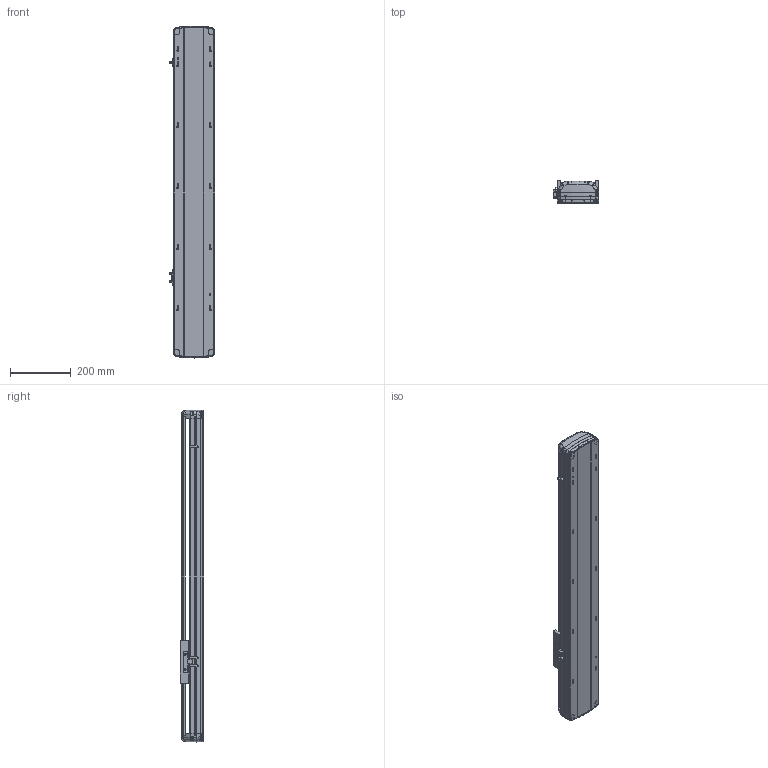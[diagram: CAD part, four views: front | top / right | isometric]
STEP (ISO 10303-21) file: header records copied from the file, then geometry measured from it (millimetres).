
FILE_DESCRIPTION (( 'STEP AP214' ), '1' );
FILE_NAME ('RTH14-XX-700-B-M20-C4.STEP', '2025-10-25T02:22:18', ( 'Microsoft' ), ( 'Microsoft' ), 'SwSTEP 2.0', 'SolidWorks 2018', '' );
FILE_SCHEMA (( 'AUTOMOTIVE_DESIGN' ));
Length unit declared in the file: millimetre
Products named in the file (7): N_RTH14-B-011P菁釱^RTH14-XX-XX-B-M20-C4; N_RTH14-R-004-SFSR16賑釱^RTH14-XX-XX-B-M20-C4; N_RTH13-L-012感应片（外置）^RTH14-XX-XX-B-M20-C4; N_RTH14-GY-001P^RTH14-XX-XX-B-M20-C4; RTH14-XX-700-B-M20-C4; N_RTH14-B-007奻裔^RTH14-XX-XX-B-M20-C4; N_OMRON EE-SX672 传感器^RTH14-XX-XX-B-M20-C4
Assembly tree (9 placements, depth 2):
  RTH14-XX-700-B-M20-C4
    N_RTH14-B-011P菁釱^RTH14-XX-XX-B-M20-C4
    N_RTH14-B-007奻裔^RTH14-XX-XX-B-M20-C4
    N_RTH13-L-012感应片（外置）^RTH14-XX-XX-B-M20-C4
    N_OMRON EE-SX672 传感器^RTH14-XX-XX-B-M20-C4  x3
    N_RTH14-R-004-SFSR16賑釱^RTH14-XX-XX-B-M20-C4
    N_RTH14-GY-001P^RTH14-XX-XX-B-M20-C4  x2
Bounding box: 148.5 x 78.03 x 1088.99 mm (x, y, z)
Volume: 4461721.2 mm3; surface area: 1031406.1 mm2
Topology: 9 solids, 9 shells, 1936 faces, 5458 edges, 3554 vertices
Faces by surface type: plane 983, bspline 450, cylinder 439, cone 56, torus 8
Entity records: 47346 total; most frequent: CARTESIAN_POINT 21030, ORIENTED_EDGE 5932, DIRECTION 4389, EDGE_CURVE 2966, VERTEX_POINT 1940, LINE 1661, VECTOR 1661, AXIS2_PLACEMENT_3D 1364
